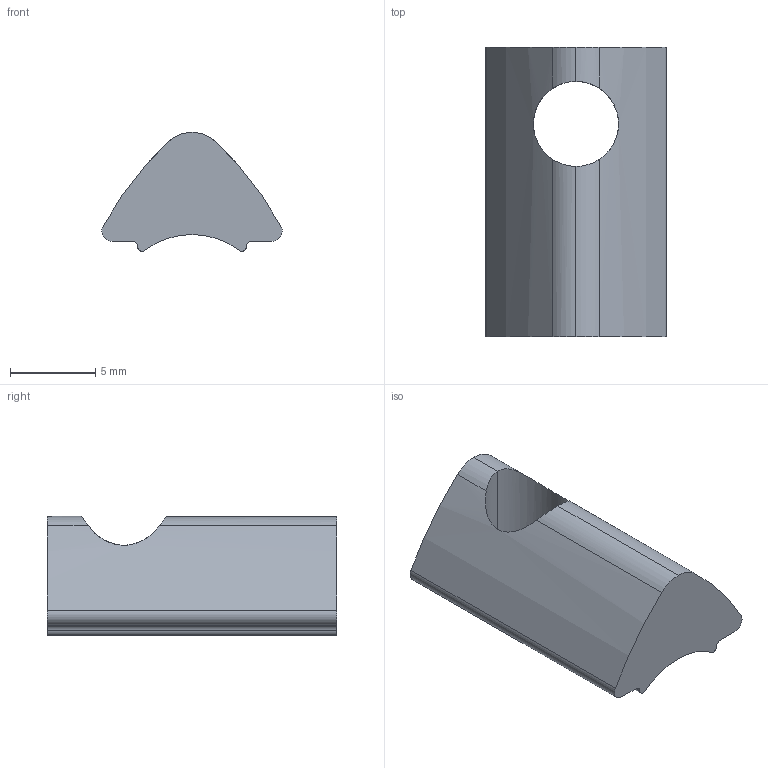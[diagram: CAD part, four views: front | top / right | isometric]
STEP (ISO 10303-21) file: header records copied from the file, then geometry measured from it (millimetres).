
FILE_DESCRIPTION(('STEP AP214'),'1');
FILE_NAME('cctmp_79E15BF4-725E-4E2C-A3F8-2D7CB176E7B6_2020_12_17_18_46_38_0593..stp','2020-12-17T17:46:38',('item Industrietechnik GmbH'),('CADClick - www.CADClick.com'),'Spatial InterOp 3D',' ','unknown authorization');
FILE_SCHEMA(('AUTOMOTIVE_DESIGN'));
Length unit declared in the file: millimetre
Products named in the file (1): item_0041943_T-Slot Nut 6 St M5
Bounding box: 10.6 x 17 x 7 mm (x, y, z)
Volume: 653.5 mm3; surface area: 619.5 mm2
Topology: 1 solids, 1 shells, 22 faces, 62 edges, 40 vertices
Faces by surface type: cylinder 18, plane 4
Entity records: 1071 total; most frequent: CARTESIAN_POINT 286, DIRECTION 128, ORIENTED_EDGE 124, EDGE_CURVE 62, AXIS2_PLACEMENT_3D 51, VERTEX_POINT 40, CIRCLE 28, LINE 26
